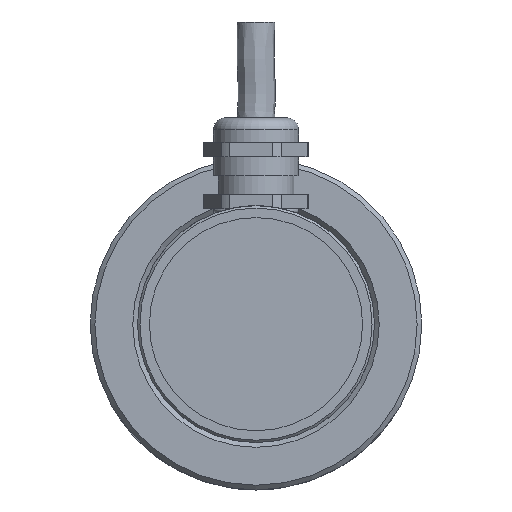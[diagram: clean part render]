
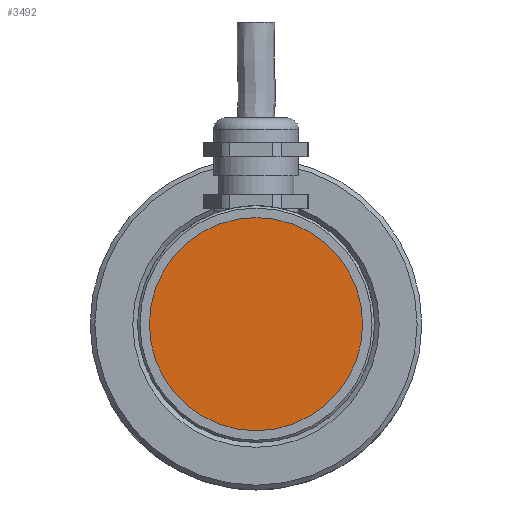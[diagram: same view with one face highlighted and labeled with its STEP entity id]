
A CAD part, left-side view. The second image highlights one B-rep face of the part: STEP entity #3492.
In plain terms, the highlighted planar face has unit normal (-1, 0, 0).
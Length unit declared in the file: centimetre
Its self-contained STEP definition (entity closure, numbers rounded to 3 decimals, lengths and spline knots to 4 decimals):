
#1024=PLANE('',#3687);
#1410=CIRCLE('',#3685,2.25);
#1533=VERTEX_POINT('',#4733);
#1876=EDGE_CURVE('',#1533,#1533,#1410,.T.);
#2276=ORIENTED_EDGE('',*,*,#1876,.T.);
#3007=EDGE_LOOP('',(#2276));
#3255=FACE_BOUND('',#3007,.T.);
#3492=ADVANCED_FACE('',(#3255),#1024,.T.);
#3685=AXIS2_PLACEMENT_3D('',#4732,#3974,#3975);
#3687=AXIS2_PLACEMENT_3D('',#4736,#3978,$);
#3974=DIRECTION('',(-1.,0.,0.));
#3975=DIRECTION('',(0.,0.,2.25));
#3978=DIRECTION('',(-1.,0.,0.));
#4732=CARTESIAN_POINT('',(0.1,0.,0.));
#4733=CARTESIAN_POINT('',(0.1,0.,2.25));
#4736=CARTESIAN_POINT('',(0.1,0.,0.));
